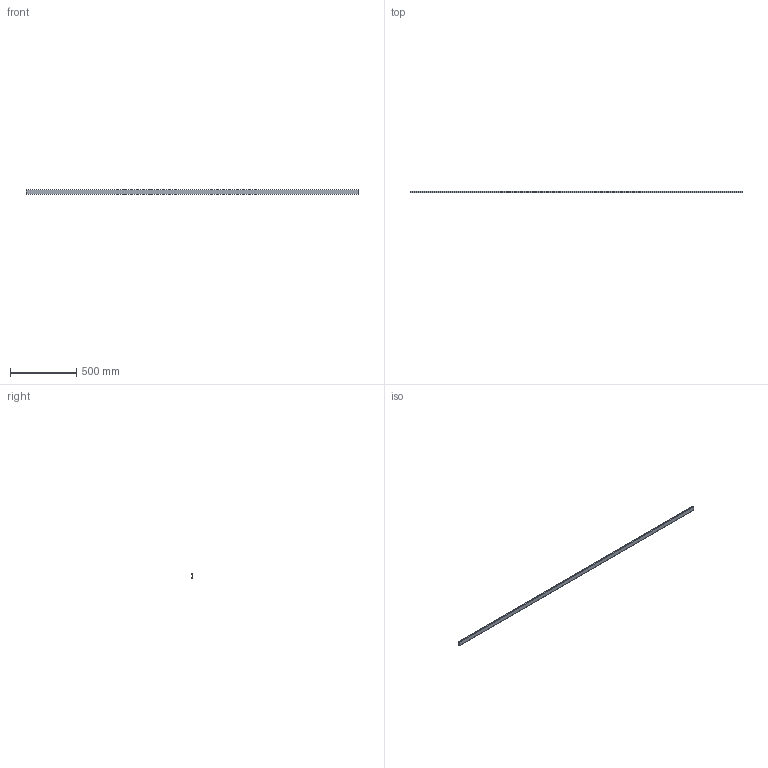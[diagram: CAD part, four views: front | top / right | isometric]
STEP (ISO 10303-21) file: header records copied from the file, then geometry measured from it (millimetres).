
FILE_DESCRIPTION(('STEP AP242'),'1');
FILE_NAME('OPO_65.082.22_volu_3d.stp','2026-01-30T20:53:35',(' '),(' '),'Spatial InterOp 3D',' ',' ');
FILE_SCHEMA(('AP242_MANAGED_MODEL_BASED_3D_ENGINEERING_MIM_LF {1 0 10303 442 1 1 4}'));
Length unit declared in the file: millimetre
Products named in the file (1): 1
Bounding box: 2500 x 9.5 x 33 mm (x, y, z)
Volume: 130000 mm3; surface area: 265104 mm2
Topology: 1 solids, 1 shells, 56 faces, 148 edges, 98 vertices
Faces by surface type: plane 36, cylinder 20
Entity records: 2200 total; most frequent: CARTESIAN_POINT 303, DIRECTION 302, ORIENTED_EDGE 296, EDGE_CURVE 148, LINE 108, VECTOR 108, VERTEX_POINT 98, AXIS2_PLACEMENT_3D 97
